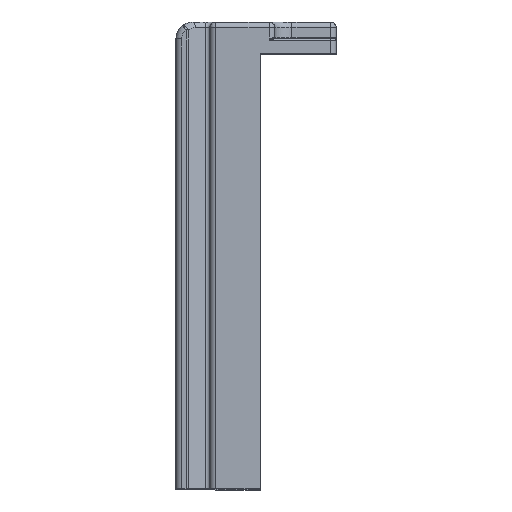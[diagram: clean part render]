
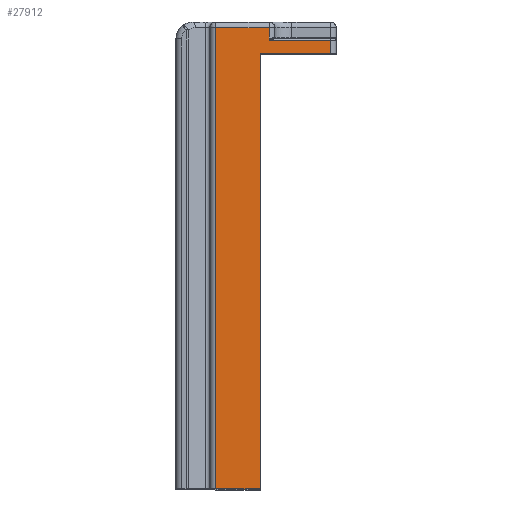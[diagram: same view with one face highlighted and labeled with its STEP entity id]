
A CAD part, top view. The second image highlights one B-rep face of the part: STEP entity #27912.
In plain terms, the highlighted planar face has unit normal (0, 0, 1).
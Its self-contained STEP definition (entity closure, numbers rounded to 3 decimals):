
#187=DIRECTION('',(1.,0.,0.));
#188=VECTOR('',#187,12.4);
#189=CARTESIAN_POINT('',(-78.1,27.,52.5));
#190=LINE('',#189,#188);
#486=DIRECTION('',(0.,1.,0.));
#487=VECTOR('',#486,2.2);
#488=CARTESIAN_POINT('',(-76.5,29.3,52.5));
#489=LINE('',#488,#487);
#516=CARTESIAN_POINT('',(-76.5,29.3,52.5));
#6257=DIRECTION('',(0.,1.,0.));
#6258=VECTOR('',#6257,77.);
#6259=CARTESIAN_POINT('',(-78.1,-50.,52.5));
#6260=LINE('',#6259,#6258);
#6261=DIRECTION('',(-1.,0.,0.));
#6262=VECTOR('',#6261,7.9);
#6263=CARTESIAN_POINT('',(-78.1,-50.,52.5));
#6264=LINE('',#6263,#6262);
#6265=DIRECTION('',(0.,-1.,0.));
#6266=VECTOR('',#6265,81.5);
#6267=CARTESIAN_POINT('',(-86.,31.5,52.5));
#6268=LINE('',#6267,#6266);
#6269=DIRECTION('',(-1.,0.,0.));
#6270=VECTOR('',#6269,9.5);
#6271=CARTESIAN_POINT('',(-76.5,31.5,52.5));
#6272=LINE('',#6271,#6270);
#6273=DIRECTION('',(1.,0.,0.));
#6274=VECTOR('',#6273,10.8);
#6275=CARTESIAN_POINT('',(-76.5,29.3,52.5));
#6276=LINE('',#6275,#6274);
#6277=DIRECTION('',(0.,1.,0.));
#6278=VECTOR('',#6277,2.3);
#6279=CARTESIAN_POINT('',(-65.7,27.,52.5));
#6280=LINE('',#6279,#6278);
#19218=VERTEX_POINT('',#516);
#19356=CARTESIAN_POINT('',(-86.,-50.,52.5));
#19358=VERTEX_POINT('',#19356);
#19414=CARTESIAN_POINT('',(-86.,31.5,52.5));
#19415=VERTEX_POINT('',#19414);
#19424=CARTESIAN_POINT('',(-76.5,31.5,52.5));
#19425=VERTEX_POINT('',#19424);
#19638=CARTESIAN_POINT('',(-65.7,27.,52.5));
#19640=VERTEX_POINT('',#19638);
#19661=CARTESIAN_POINT('',(-65.7,29.3,52.5));
#19662=VERTEX_POINT('',#19661);
#23316=CARTESIAN_POINT('',(-78.1,-50.,52.5));
#23317=CARTESIAN_POINT('',(-78.1,27.,52.5));
#23318=VERTEX_POINT('',#23316);
#23319=VERTEX_POINT('',#23317);
#27894=CARTESIAN_POINT('',(0.,0.,52.5));
#27895=DIRECTION('',(0.,0.,1.));
#27896=DIRECTION('',(1.,0.,0.));
#27897=AXIS2_PLACEMENT_3D('',#27894,#27895,#27896);
#27898=PLANE('',#27897);
#27899=ORIENTED_EDGE('',*,*,#23471,.F.);
#27900=ORIENTED_EDGE('',*,*,#27882,.F.);
#27901=ORIENTED_EDGE('',*,*,#27463,.T.);
#27903=ORIENTED_EDGE('',*,*,#27902,.F.);
#27905=ORIENTED_EDGE('',*,*,#27904,.F.);
#27906=ORIENTED_EDGE('',*,*,#23750,.F.);
#27907=ORIENTED_EDGE('',*,*,#23851,.T.);
#27909=ORIENTED_EDGE('',*,*,#27908,.F.);
#27910=EDGE_LOOP('',(#27899,#27900,#27901,#27903,#27905,#27906,#27907,#27909));
#27911=FACE_OUTER_BOUND('',#27910,.F.);
#27912=ADVANCED_FACE('',(#27911),#27898,.T.);
#23471=EDGE_CURVE('',#23319,#19640,#190,.T.);
#23750=EDGE_CURVE('',#19218,#19425,#489,.T.);
#23851=EDGE_CURVE('',#19218,#19662,#6276,.T.);
#27463=EDGE_CURVE('',#23318,#19358,#6264,.T.);
#27882=EDGE_CURVE('',#23318,#23319,#6260,.T.);
#27902=EDGE_CURVE('',#19415,#19358,#6268,.T.);
#27904=EDGE_CURVE('',#19425,#19415,#6272,.T.);
#27908=EDGE_CURVE('',#19640,#19662,#6280,.T.);
